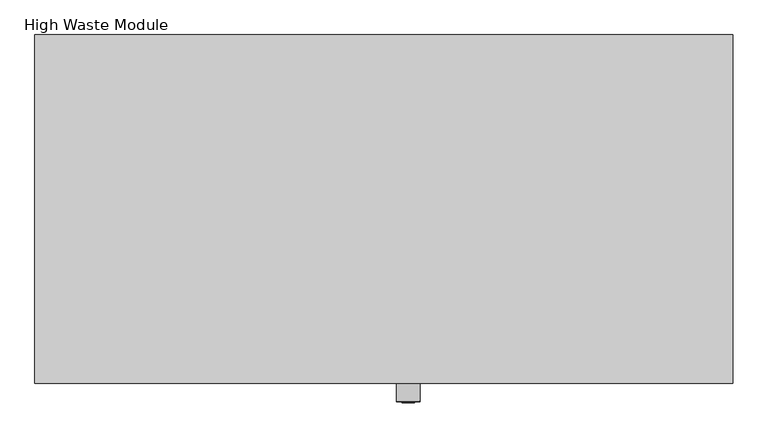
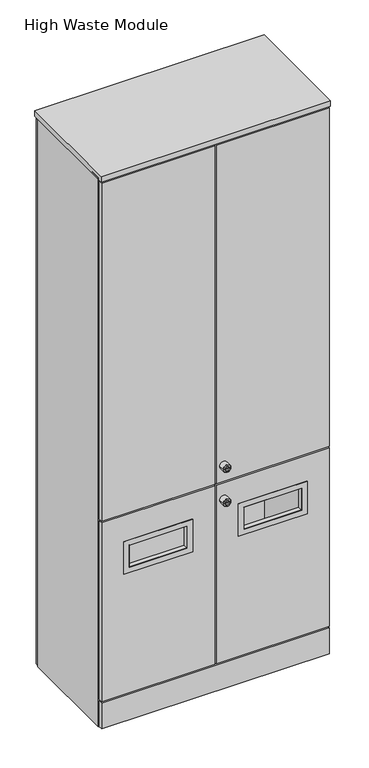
"""IFC4 building model written with IfcOpenShell, lengths in millimetres: furniture geometry, Furniture_Storage_Spacestor_SignatureStoragewall : High Waste Module."""

from ifc_helpers import new_model, si_unit, point, frame, origin, origin_with_axes, place, context, project, spatial, polyline, circle_curve, ellipse_curve, trimmed, outline, extrude, faceted_brep, source, transform, mapped, element, save
from ifc_brep_helpers import plane_surface, cylinder_surface, revolved_surface, advanced_brep


def high_waste_module_f75e4131(model_context):
    return source(origin(), model_context, "Body", "SolidModel", [
        extrude(outline(polyline([(996.5, 459.0), (3.5, 459.0), (3.5, 477.0), (996.5, 477.0), (996.5, 459.0)])), origin_with_axes(), (0.0, 0.0, 1.0), 2518.0),
        extrude(outline(polyline([(996.5, -18.0), (3.5, -18.0), (3.5, 0.0), (996.5, 0.0), (996.5, -18.0)])), origin_with_axes(), (0.0, 0.0, 1.0), 118.0),
        extrude(outline(polyline([(1000.0, -20.5), (0.0, -20.5), (0.0, 479.5), (1000.0, 479.5), (1000.0, -20.5)])), frame((0.0, 0.0, 2525.0), z_axis=(0.0, 0.0, 1.0), x_axis=(1.0, 0.0, 0.0)), (0.0, 0.0, 1.0), 25.5),
        extrude(outline(polyline([(1000.0, 0.0), (989.0, 0.0), (989.0, 459.0), (1000.0, 459.0), (1000.0, 0.0)])), origin_with_axes(), (0.0, 0.0, 1.0), 2532.5),
        extrude(outline(polyline([(11.0, 0.0), (0.0, 0.0), (0.0, 459.0), (11.0, 459.0), (11.0, 0.0)])), origin_with_axes(), (0.0, 0.0, 1.0), 2532.5),
        extrude(outline(polyline([(989.0, 0.0), (11.0, 0.0), (11.0, 459.0), (989.0, 459.0), (989.0, 0.0)])), frame((0.0, 0.0, 110.5), z_axis=(0.0, 0.0, 1.0), x_axis=(1.0, 0.0, 0.0)), (0.0, 0.0, 1.0), 22.0),
        extrude(outline(polyline([(989.0, 0.0), (11.0, 0.0), (11.0, 459.0), (989.0, 459.0), (989.0, 0.0)])), frame((0.0, 0.0, 2510.0), z_axis=(0.0, 0.0, 1.0), x_axis=(1.0, 0.0, 0.0)), (0.0, 0.0, 1.0), 22.0),
        extrude(outline(polyline([(989.0, 0.0), (11.0, 0.0), (11.0, 459.0), (989.0, 459.0), (989.0, 0.0)])), frame((0.0, 0.0, 942.5), z_axis=(0.0, 0.0, 1.0), x_axis=(1.0, 0.0, 0.0)), (0.0, 0.0, 1.0), 22.0),
        faceted_brep([(376.5, 2.0, 806.5), (376.5, 2.0, 703.5), (123.5, 2.0, 703.5), (123.5, 2.0, 806.5), (375.0, 2.0, 705.0), (375.0, 2.0, 805.0), (125.0, 2.0, 805.0), (125.0, 2.0, 705.0), (375.0, -18.0, 705.0), (375.0, -18.0, 805.0), (125.0, -18.0, 705.0), (125.0, -18.0, 805.0), (376.5, -18.0, 806.5), (376.5, -18.0, 703.5), (123.5, -18.0, 703.5), (123.5, -18.0, 806.5), (400.0, -19.5, 830.0), (400.0, -19.5, 680.0), (400.0, -18.0, 680.0), (400.0, -18.0, 830.0), (100.0, -18.0, 680.0), (100.0, -18.0, 830.0), (100.0, -19.5, 680.0), (100.0, -19.5, 830.0), (375.0, -19.5, 805.0), (375.0, -19.5, 705.0), (125.0, -19.5, 705.0), (125.0, -19.5, 805.0)], [[[0, 1, 2, 3], [4, 5, 6, 7]], [[4, 8, 9, 5]], [[10, 7, 6, 11]], [[11, 6, 5, 9]], [[10, 8, 4, 7]], [[12, 13, 1, 0]], [[3, 2, 14, 15]], [[12, 0, 3, 15]], [[13, 14, 2, 1]], [[16, 17, 18, 19]], [[19, 18, 20, 21], [12, 15, 14, 13]], [[21, 20, 22, 23]], [[23, 22, 17, 16], [24, 25, 26, 27]], [[16, 19, 21, 23]], [[17, 22, 20, 18]], [[10, 11, 27, 26]], [[9, 8, 25, 24]], [[25, 8, 10, 26]], [[11, 9, 24, 27]]]),
        extrude(outline(polyline([(950.0, 3.5), (125.0, 3.5), (125.0, 496.5), (950.0, 496.5), (950.0, 3.5)]), holes=[polyline([(805.0, 375.0), (705.0, 375.0), (705.0, 125.0), (805.0, 125.0), (805.0, 375.0)])]), frame((0.0, -18.0, 0.0), z_axis=(0.0, 1.0, 0.0), x_axis=(0.0, 0.0, 1.0)), (0.0, 0.0, 1.0), 18.0),
        extrude(outline(polyline([(3.5, -18.0), (3.5, 0.0), (496.5, 0.0), (496.5, -18.0), (3.5, -18.0)])), frame((0.0, 0.0, 957.0), z_axis=(0.0, 0.0, 1.0), x_axis=(1.0, 0.0, 0.0)), (0.0, 0.0, 1.0), 1561.0),
        extrude(outline(polyline([(996.5, -18.0), (503.5, -18.0), (503.5, 0.0), (996.5, 0.0), (996.5, -18.0)])), frame((0.0, 0.0, 957.0), z_axis=(0.0, 0.0, 1.0), x_axis=(1.0, 0.0, 0.0)), (0.0, 0.0, 1.0), 1561.0),
        faceted_brep([(623.5, 2.0, 806.5), (876.5, 2.0, 806.5), (876.5, 2.0, 703.5), (623.5, 2.0, 703.5), (625.0, 2.0, 705.0), (875.0, 2.0, 705.0), (875.0, 2.0, 805.0), (625.0, 2.0, 805.0), (625.0, -18.0, 805.0), (625.0, -18.0, 705.0), (875.0, -18.0, 705.0), (875.0, -18.0, 805.0), (623.5, -18.0, 806.5), (623.5, -18.0, 703.5), (876.5, -18.0, 806.5), (876.5, -18.0, 703.5), (600.0, -19.5, 830.0), (600.0, -18.0, 830.0), (600.0, -18.0, 680.0), (600.0, -19.5, 680.0), (900.0, -18.0, 830.0), (900.0, -18.0, 680.0), (900.0, -19.5, 830.0), (900.0, -19.5, 680.0), (625.0, -19.5, 805.0), (875.0, -19.5, 805.0), (875.0, -19.5, 705.0), (625.0, -19.5, 705.0)], [[[0, 1, 2, 3], [4, 5, 6, 7]], [[4, 7, 8, 9]], [[10, 11, 6, 5]], [[11, 8, 7, 6]], [[10, 5, 4, 9]], [[12, 0, 3, 13]], [[1, 14, 15, 2]], [[12, 14, 1, 0]], [[13, 3, 2, 15]], [[16, 17, 18, 19]], [[17, 20, 21, 18], [12, 13, 15, 14]], [[20, 22, 23, 21]], [[22, 16, 19, 23], [24, 25, 26, 27]], [[16, 22, 20, 17]], [[19, 18, 21, 23]], [[10, 26, 25, 11]], [[8, 24, 27, 9]], [[27, 26, 10, 9]], [[11, 25, 24, 8]]]),
        extrude(outline(polyline([(950.0, 996.5), (950.0, 503.5), (125.0, 503.5), (125.0, 996.5), (950.0, 996.5)]), holes=[polyline([(805.0, 625.0), (805.0, 875.0), (705.0, 875.0), (705.0, 625.0), (805.0, 625.0)])]), frame((0.0, -18.0, 0.0), z_axis=(0.0, 1.0, 0.0), x_axis=(0.0, 0.0, 1.0)), (0.0, 0.0, 1.0), 18.0),
        advanced_brep(
        [(552.0, -45.3116344, 1032.0), (518.0, -45.3116344, 1032.0), (518.0, -18.0, 1032.0), (552.0, -18.0, 1032.0), (535.0, -18.0, 1032.0), (543.9747319, -46.3150077, 1032.0), (526.0252681, -46.3150077, 1032.0), (519.0033734, -46.3150077, 1032.0), (550.9966266, -46.3150077, 1032.0), (543.9747319, -47.4703043, 1032.0), (526.0252681, -47.4703043, 1032.0), (539.8245152, -47.4703043, 1032.0), (539.8245152, -47.4703043, 1030.6366562), (530.1754848, -47.4703043, 1030.6366562), (530.1754848, -47.4703043, 1032.0), (530.1754848, -47.4703043, 1033.3633438), (539.8245152, -47.4703043, 1033.3633438), (530.1754848, -27.8604291, 1030.6366562), (539.8245152, -27.8604291, 1030.6366562), (539.8245152, -27.8604291, 1033.3633438), (530.1754848, -27.8604291, 1033.3633438)],
        [
            (0, 1, circle_curve(frame((535.0, -45.3116344, 1032.0), z_axis=(0.0, 1.0, 0.0), x_axis=(-1.0, 0.0, 0.0)), 17.0)),
            (1, 2),
            (2, 3, circle_curve(frame((535.0, -18.0, 1032.0), z_axis=(0.0, -1.0, 0.0), x_axis=(-1.0, 0.0, 0.0)), 17.0)),
            (3, 0),
            (1, 0, circle_curve(frame((535.0, -45.3116344, 1032.0), z_axis=(0.0, 1.0, 0.0), x_axis=(-1.0, 0.0, 0.0)), 17.0)),
            (3, 2, circle_curve(frame((535.0, -18.0, 1032.0), z_axis=(0.0, -1.0, 0.0), x_axis=(-1.0, 0.0, 0.0)), 17.0)),
            (2, 4),
            (4, 3),
            (5, 6, circle_curve(frame((535.0, -46.3150077, 1032.0), z_axis=(0.0, 1.0, 0.0), x_axis=(-1.0, 0.0, 0.0)), 8.9747319)),
            (6, 7),
            (7, 8, circle_curve(frame((535.0, -46.3150077, 1032.0), z_axis=(0.0, -1.0, 0.0), x_axis=(-1.0, 0.0, 0.0)), 15.9966266)),
            (8, 5),
            (6, 5, circle_curve(frame((535.0, -46.3150077, 1032.0), z_axis=(0.0, 1.0, 0.0), x_axis=(-1.0, 0.0, 0.0)), 8.9747319)),
            (8, 7, circle_curve(frame((535.0, -46.3150077, 1032.0), z_axis=(0.0, -1.0, 0.0), x_axis=(-1.0, 0.0, 0.0)), 15.9966266)),
            (0, 8, circle_curve(frame((550.9966266, -45.3116344, 1032.0), z_axis=(0.0, 0.0, -1.0), x_axis=(1.0, 0.0, 0.0)), 1.0033734)),
            (7, 1, circle_curve(frame((519.0033734, -45.3116344, 1032.0), z_axis=(0.0, 0.0, -1.0), x_axis=(-1.0, 0.0, 0.0)), 1.0033734)),
            (5, 9),
            (9, 10, circle_curve(frame((535.0, -47.4703043, 1032.0), z_axis=(0.0, 1.0, 0.0), x_axis=(-1.0, 0.0, 0.0)), 8.9747319)),
            (10, 6),
            (10, 9, circle_curve(frame((535.0, -47.4703043, 1032.0), z_axis=(0.0, 1.0, 0.0), x_axis=(-1.0, 0.0, 0.0)), 8.9747319)),
            (9, 11),
            (11, 12),
            (12, 13),
            (13, 14),
            (14, 10),
            (14, 15),
            (15, 16),
            (16, 11),
            (17, 18),
            (18, 19),
            (19, 20),
            (20, 17),
            (17, 13),
            (12, 18),
            (16, 19),
            (15, 20),
        ],
        [
            cylinder_surface(frame((535.0, -2627.0581012, 1032.0), z_axis=(0.0, -1.0, 0.0), x_axis=(-1.0, 0.0, 0.0)), 17.0),
            plane_surface(frame((535.0, -18.0, 1032.0), z_axis=(0.0, 1.0, 0.0), x_axis=(-1.0, 0.0, 0.0))),
            plane_surface(frame((535.0, -46.3150077, 1032.0), z_axis=(0.0, -1.0, 0.0), x_axis=(-1.0, 0.0, 0.0))),
            revolved_surface(trimmed(ellipse_curve(frame((519.0033734, -45.3116344, 1032.0), z_axis=(0.0, 0.0, 1.0), x_axis=(-1.0, 0.0, 0.0)), 1.0033734, 1.0033734), [point((518.0, -45.3116344, 1032.0))], [point((519.0033734, -46.3150077, 1032.0))], True, "CARTESIAN"), (535.0, -2627.0581012, 1032.0), (0.0, -1.0, 0.0)),
            cylinder_surface(frame((535.0, -2627.0581012, 1032.0), z_axis=(0.0, -1.0, 0.0), x_axis=(-1.0, 0.0, 0.0)), 8.9747319),
            plane_surface(frame((535.0, -47.4703043, 1032.0), z_axis=(0.0, -1.0, 0.0), x_axis=(-1.0, 0.0, 0.0))),
            plane_surface(frame((539.4565249, -27.8604291, 1030.6366562), z_axis=(0.0, -1.0, 0.0), x_axis=(-1.0, 0.0, 0.0))),
            plane_surface(frame((530.1754848, -49.2046383, 1030.6366562), z_axis=(0.0, 0.0, 1.0), x_axis=(0.0, 1.0, 0.0))),
            plane_surface(frame((539.8245152, -49.2046383, 1030.6366562), z_axis=(-1.0, 0.0, 0.0), x_axis=(0.0, 1.0, 0.0))),
            plane_surface(frame((539.8245152, -49.2046383, 1033.3633438), z_axis=(0.0, 0.0, -1.0), x_axis=(0.0, 1.0, 0.0))),
            plane_surface(frame((530.1754848, -49.2046383, 1033.3633438), z_axis=(1.0, 0.0, 0.0), x_axis=(0.0, 1.0, 0.0))),
        ],
        [
            (0, [[1, 2, 3, 4]]),
            (0, [[-2, 5, -4, 6]]),
            (1, [[-3, 7, 8]]),
            (1, [[-6, -8, -7]]),
            (2, [[9, 10, 11, 12]]),
            (2, [[-10, 13, -12, 14]]),
            (3, [[-1, 15, -11, 16]]),
            (3, [[-5, -16, -14, -15]]),
            (4, [[-9, 17, 18, 19]]),
            (4, [[-13, -19, 20, -17]]),
            (5, [[-18, 21, 22, 23, 24, 25]]),
            (5, [[-20, -25, 26, 27, 28, -21]]),
            (6, [[29, 30, 31, 32]]),
            (7, [[-29, 33, -23, 34]]),
            (8, [[-30, -34, -22, -28, 35]]),
            (9, [[-31, -35, -27, 36]]),
            (10, [[-32, -36, -26, -24, -33]]),
        ],
    ),
        advanced_brep(
        [(552.0, -45.3116344, 875.0), (518.0, -45.3116344, 875.0), (518.0, -18.0, 875.0), (552.0, -18.0, 875.0), (535.0, -18.0, 875.0), (543.9747319, -46.3150077, 875.0), (526.0252681, -46.3150077, 875.0), (519.0033734, -46.3150077, 875.0), (550.9966266, -46.3150077, 875.0), (543.9747319, -47.4703043, 875.0), (526.0252681, -47.4703043, 875.0), (539.8245152, -47.4703043, 875.0), (539.8245152, -47.4703043, 873.6366562), (530.1754848, -47.4703043, 873.6366562), (530.1754848, -47.4703043, 875.0), (530.1754848, -47.4703043, 876.3633438), (539.8245152, -47.4703043, 876.3633438), (530.1754848, -27.8604291, 873.6366562), (539.8245152, -27.8604291, 873.6366562), (539.8245152, -27.8604291, 876.3633438), (530.1754848, -27.8604291, 876.3633438)],
        [
            (0, 1, circle_curve(frame((535.0, -45.3116344, 875.0), z_axis=(0.0, 1.0, 0.0), x_axis=(-1.0, 0.0, 0.0)), 17.0)),
            (1, 2),
            (2, 3, circle_curve(frame((535.0, -18.0, 875.0), z_axis=(0.0, -1.0, 0.0), x_axis=(-1.0, 0.0, 0.0)), 17.0)),
            (3, 0),
            (1, 0, circle_curve(frame((535.0, -45.3116344, 875.0), z_axis=(0.0, 1.0, 0.0), x_axis=(-1.0, 0.0, 0.0)), 17.0)),
            (3, 2, circle_curve(frame((535.0, -18.0, 875.0), z_axis=(0.0, -1.0, 0.0), x_axis=(-1.0, 0.0, 0.0)), 17.0)),
            (2, 4),
            (4, 3),
            (5, 6, circle_curve(frame((535.0, -46.3150077, 875.0), z_axis=(0.0, 1.0, 0.0), x_axis=(-1.0, 0.0, 0.0)), 8.9747319)),
            (6, 7),
            (7, 8, circle_curve(frame((535.0, -46.3150077, 875.0), z_axis=(0.0, -1.0, 0.0), x_axis=(-1.0, 0.0, 0.0)), 15.9966266)),
            (8, 5),
            (6, 5, circle_curve(frame((535.0, -46.3150077, 875.0), z_axis=(0.0, 1.0, 0.0), x_axis=(-1.0, 0.0, 0.0)), 8.9747319)),
            (8, 7, circle_curve(frame((535.0, -46.3150077, 875.0), z_axis=(0.0, -1.0, 0.0), x_axis=(-1.0, 0.0, 0.0)), 15.9966266)),
            (0, 8, circle_curve(frame((550.9966266, -45.3116344, 875.0), z_axis=(0.0, 0.0, -1.0), x_axis=(1.0, 0.0, 0.0)), 1.0033734)),
            (7, 1, circle_curve(frame((519.0033734, -45.3116344, 875.0), z_axis=(0.0, 0.0, -1.0), x_axis=(-1.0, 0.0, 0.0)), 1.0033734)),
            (5, 9),
            (9, 10, circle_curve(frame((535.0, -47.4703043, 875.0), z_axis=(0.0, 1.0, 0.0), x_axis=(-1.0, 0.0, 0.0)), 8.9747319)),
            (10, 6),
            (10, 9, circle_curve(frame((535.0, -47.4703043, 875.0), z_axis=(0.0, 1.0, 0.0), x_axis=(-1.0, 0.0, 0.0)), 8.9747319)),
            (9, 11),
            (11, 12),
            (12, 13),
            (13, 14),
            (14, 10),
            (14, 15),
            (15, 16),
            (16, 11),
            (17, 18),
            (18, 19),
            (19, 20),
            (20, 17),
            (17, 13),
            (12, 18),
            (16, 19),
            (15, 20),
        ],
        [
            cylinder_surface(frame((535.0, -2627.0581012, 875.0), z_axis=(0.0, -1.0, 0.0), x_axis=(-1.0, 0.0, 0.0)), 17.0),
            plane_surface(frame((535.0, -18.0, 875.0), z_axis=(0.0, 1.0, 0.0), x_axis=(-1.0, 0.0, 0.0))),
            plane_surface(frame((535.0, -46.3150077, 875.0), z_axis=(0.0, -1.0, 0.0), x_axis=(-1.0, 0.0, 0.0))),
            revolved_surface(trimmed(ellipse_curve(frame((519.0033734, -45.3116344, 875.0), z_axis=(0.0, 0.0, 1.0), x_axis=(-1.0, 0.0, 0.0)), 1.0033734, 1.0033734), [point((518.0, -45.3116344, 875.0))], [point((519.0033734, -46.3150077, 875.0))], True, "CARTESIAN"), (535.0, -2627.0581012, 875.0), (0.0, -1.0, 0.0)),
            cylinder_surface(frame((535.0, -2627.0581012, 875.0), z_axis=(0.0, -1.0, 0.0), x_axis=(-1.0, 0.0, 0.0)), 8.9747319),
            plane_surface(frame((535.0, -47.4703043, 875.0), z_axis=(0.0, -1.0, 0.0), x_axis=(-1.0, 0.0, 0.0))),
            plane_surface(frame((539.4565249, -27.8604291, 873.6366562), z_axis=(0.0, -1.0, 0.0), x_axis=(-1.0, 0.0, 0.0))),
            plane_surface(frame((530.1754848, -49.2046383, 873.6366562), z_axis=(0.0, 0.0, 1.0), x_axis=(0.0, 1.0, 0.0))),
            plane_surface(frame((539.8245152, -49.2046383, 873.6366562), z_axis=(-1.0, 0.0, 0.0), x_axis=(0.0, 1.0, 0.0))),
            plane_surface(frame((539.8245152, -49.2046383, 876.3633438), z_axis=(0.0, 0.0, -1.0), x_axis=(0.0, 1.0, 0.0))),
            plane_surface(frame((530.1754848, -49.2046383, 876.3633438), z_axis=(1.0, 0.0, 0.0), x_axis=(0.0, 1.0, 0.0))),
        ],
        [
            (0, [[1, 2, 3, 4]]),
            (0, [[-2, 5, -4, 6]]),
            (1, [[-3, 7, 8]]),
            (1, [[-6, -8, -7]]),
            (2, [[9, 10, 11, 12]]),
            (2, [[-10, 13, -12, 14]]),
            (3, [[-1, 15, -11, 16]]),
            (3, [[-5, -16, -14, -15]]),
            (4, [[-9, 17, 18, 19]]),
            (4, [[-13, -19, 20, -17]]),
            (5, [[-18, 21, 22, 23, 24, 25]]),
            (5, [[-20, -25, 26, 27, 28, -21]]),
            (6, [[29, 30, 31, 32]]),
            (7, [[-29, 33, -23, 34]]),
            (8, [[-30, -34, -22, -28, 35]]),
            (9, [[-31, -35, -27, 36]]),
            (10, [[-32, -36, -26, -24, -33]]),
        ],
    ),
    ])


if __name__ == "__main__":
    model = new_model("IFC4")
    model_context = context("Model", 3, world=origin())
    ifc_project = project(units=[si_unit("LENGTHUNIT", "METRE", prefix="MILLI")], contexts=[model_context])
    site = spatial("IfcSite", under=ifc_project)
    building = spatial("IfcBuilding", under=site)
    placement = place(None, origin())
    high_waste_module_shape = high_waste_module_f75e4131(model_context)
    element("IfcFurniture", 1, ObjectType="Furniture_Storage_Spacestor_SignatureStoragewall : High Waste Module", at=placement, inside=building, context=model_context, shape_type="MappedRepresentation", body=[
        mapped(high_waste_module_shape, transform((0.0, 0.0, 0.0), x_axis=(1.0, 0.0, 0.0), y_axis=(0.0, 1.0, 0.0), z_axis=(0.0, 0.0, 1.0))),
    ])
    save(model, "model.ifc")
